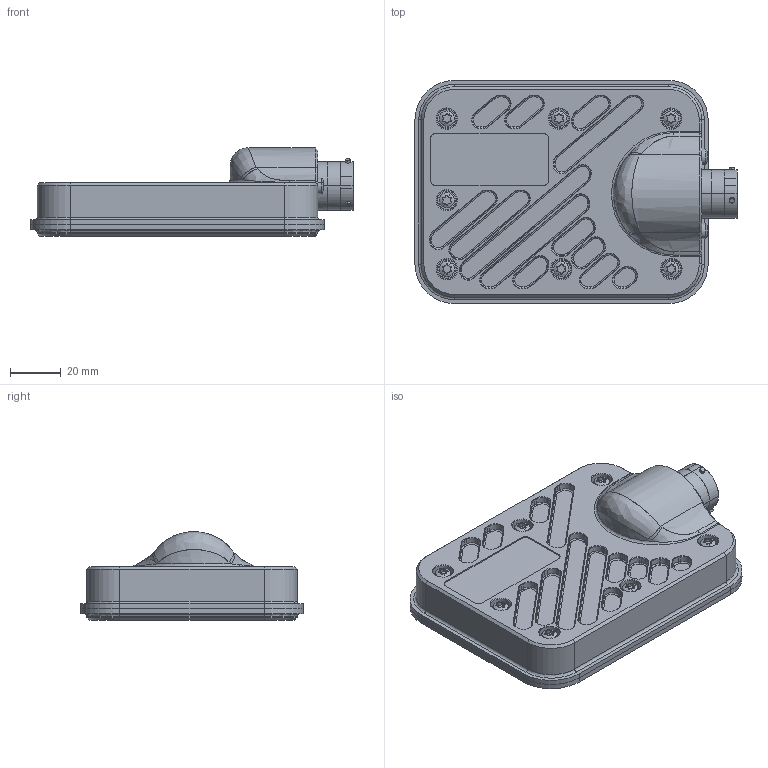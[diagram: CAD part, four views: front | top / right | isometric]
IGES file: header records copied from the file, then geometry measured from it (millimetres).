
Start section: START RECORD GO HERE.
Global section: file name: MCHL-E Assembly.igs; native system: DASSAULT SYSTEMES CATIA V5 R19 - www.3ds.com; preprocessor: CATIA Version 5 Release 19 SP 9 ; author: mark.labudek; organization: MAPRECISION; date: 20251121.133925; units: millimetre
Bounding box: 126.34 x 87.5 x 34.75 mm (x, y, z)
Surface area: 36759.7 mm2 (no closed solid volume)
Topology: 0 solids, 0 shells, 844 faces, 3942 edges, 3942 vertices
Faces by surface type: revolution 570, plane 212, bspline 62
